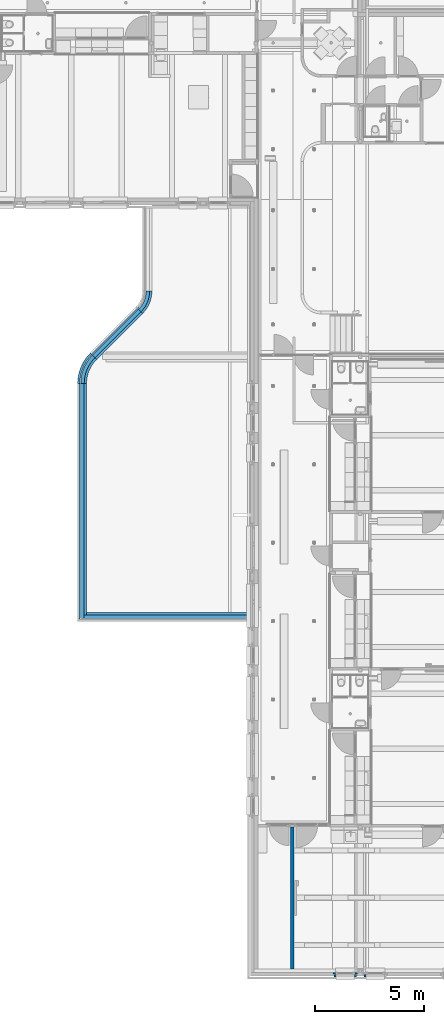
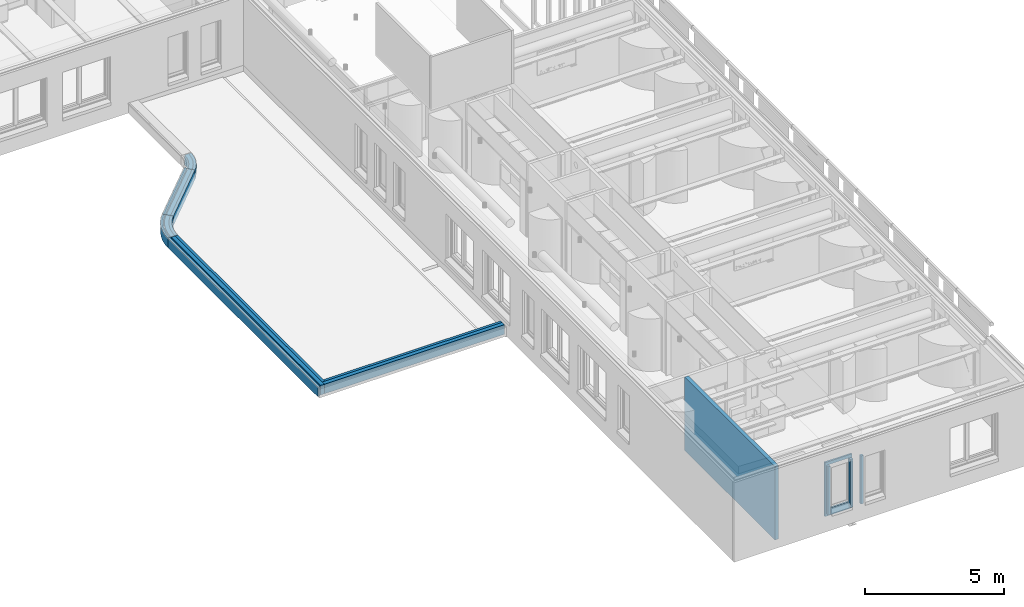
# One storey, part 32 of 128: 18 walls, 1 opening.
"""IFC2X3 building model written with IfcOpenShell, lengths in millimetres."""

from ifc_helpers import new_model, entity, si_unit, converted_unit, derived_unit, direction, frame, frame_2d, origin, place, context, subcontext, project, spatial, polyline, circle_curve, parameter, trimmed, segment, composite_curve, rectangle, outline, extrude, material, layer, layer_set, layer_usage, type_object, element, save


model = new_model("IFC2X3")

# Units and contexts
model_context = context("Model", 3, precision=0.01, world=origin(), true_north=direction((6.123031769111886e-17, 1.0)))
body_context = subcontext(model_context, "Body", "Model", "MODEL_VIEW")
ifc_project = project(units=[si_unit("LENGTHUNIT", "METRE", prefix="MILLI"), si_unit("AREAUNIT", "SQUARE_METRE"), si_unit("VOLUMEUNIT", "CUBIC_METRE"), converted_unit("PLANEANGLEUNIT", "DEGREE", entity("IfcRatioMeasure", 0.017453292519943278), si_unit("PLANEANGLEUNIT", "RADIAN"), dimensions=[0, 0, 0, 0, 0, 0, 0]), si_unit("MASSUNIT", "GRAM", prefix="KILO"), derived_unit("MASSDENSITYUNIT", [(si_unit("MASSUNIT", "GRAM", prefix="KILO"), 1), (si_unit("LENGTHUNIT", "METRE"), -3)]), derived_unit("IONCONCENTRATIONUNIT", [(si_unit("MASSUNIT", "GRAM", prefix="KILO"), 1), (si_unit("LENGTHUNIT", "METRE"), -3)]), derived_unit("MOMENTOFINERTIAUNIT", [(si_unit("LENGTHUNIT", "METRE"), 4)]), si_unit("TIMEUNIT", "SECOND"), si_unit("FREQUENCYUNIT", "HERTZ"), si_unit("THERMODYNAMICTEMPERATUREUNIT", "DEGREE_CELSIUS"), derived_unit("THERMALTRANSMITTANCEUNIT", [(si_unit("MASSUNIT", "GRAM", prefix="KILO"), 1), (si_unit("THERMODYNAMICTEMPERATUREUNIT", "KELVIN"), -1), (si_unit("TIMEUNIT", "SECOND"), -3)]), derived_unit("THERMALCONDUCTANCEUNIT", [(si_unit("MASSUNIT", "GRAM", prefix="KILO"), 1), (si_unit("THERMODYNAMICTEMPERATUREUNIT", "KELVIN"), -1), (si_unit("TIMEUNIT", "SECOND"), -3), (si_unit("LENGTHUNIT", "METRE"), 1)]), derived_unit("VOLUMETRICFLOWRATEUNIT", [(si_unit("LENGTHUNIT", "METRE"), 3), (si_unit("TIMEUNIT", "SECOND"), -1)]), derived_unit("MASSFLOWRATEUNIT", [(si_unit("MASSUNIT", "GRAM", prefix="KILO"), 1), (si_unit("TIMEUNIT", "SECOND"), -1)]), derived_unit("ROTATIONALFREQUENCYUNIT", [(si_unit("TIMEUNIT", "SECOND"), -1)]), si_unit("ELECTRICCURRENTUNIT", "AMPERE"), si_unit("ELECTRICVOLTAGEUNIT", "VOLT"), si_unit("POWERUNIT", "WATT"), si_unit("FORCEUNIT", "NEWTON", prefix="KILO"), si_unit("ILLUMINANCEUNIT", "LUX"), si_unit("LUMINOUSFLUXUNIT", "LUMEN"), si_unit("LUMINOUSINTENSITYUNIT", "CANDELA"), derived_unit("USERDEFINED", [(si_unit("MASSUNIT", "GRAM", prefix="KILO"), -1), (si_unit("LENGTHUNIT", "METRE"), -2), (si_unit("TIMEUNIT", "SECOND"), 3), (si_unit("LUMINOUSFLUXUNIT", "LUMEN"), 1)]), derived_unit("USERDEFINED", [(si_unit("MASSUNIT", "GRAM", prefix="KILO"), 1), (si_unit("TIMEUNIT", "SECOND"), -3), (si_unit("LENGTHUNIT", "METRE"), 3), (si_unit("ELECTRICCURRENTUNIT", "AMPERE"), -2)]), derived_unit("SOUNDPOWERUNIT", [(si_unit("MASSUNIT", "GRAM", prefix="KILO"), 1), (si_unit("TIMEUNIT", "SECOND"), -3), (si_unit("LENGTHUNIT", "METRE"), 2)]), derived_unit("SOUNDPRESSUREUNIT", [(si_unit("MASSUNIT", "GRAM", prefix="KILO"), 1), (si_unit("LENGTHUNIT", "METRE"), -1), (si_unit("TIMEUNIT", "SECOND"), -2)]), derived_unit("LINEARVELOCITYUNIT", [(si_unit("LENGTHUNIT", "METRE"), 1), (si_unit("TIMEUNIT", "SECOND"), -1)]), si_unit("PRESSUREUNIT", "PASCAL"), derived_unit("USERDEFINED", [(si_unit("MASSUNIT", "GRAM", prefix="KILO"), 1), (si_unit("LENGTHUNIT", "METRE"), -2), (si_unit("TIMEUNIT", "SECOND"), -2)]), derived_unit("LINEARFORCEUNIT", [(si_unit("MASSUNIT", "GRAM", prefix="KILO"), 1), (si_unit("TIMEUNIT", "SECOND"), -2)]), derived_unit("PLANARFORCEUNIT", [(si_unit("MASSUNIT", "GRAM", prefix="KILO"), 1), (si_unit("LENGTHUNIT", "METRE"), -1), (si_unit("TIMEUNIT", "SECOND"), -2)]), derived_unit("SPECIFICHEATCAPACITYUNIT", [(si_unit("THERMODYNAMICTEMPERATUREUNIT", "KELVIN"), -1), (si_unit("LENGTHUNIT", "METRE"), 2), (si_unit("TIMEUNIT", "SECOND"), -2)]), derived_unit("HEATINGVALUEUNIT", [(si_unit("LENGTHUNIT", "METRE"), 2), (si_unit("TIMEUNIT", "SECOND"), -2)]), derived_unit("VAPORPERMEABILITYUNIT", [(si_unit("LENGTHUNIT", "METRE"), -1), (si_unit("TIMEUNIT", "SECOND"), 1)]), derived_unit("DYNAMICVISCOSITYUNIT", [(si_unit("MASSUNIT", "GRAM", prefix="KILO"), 1), (si_unit("TIMEUNIT", "SECOND"), -1), (si_unit("LENGTHUNIT", "METRE"), -1)]), derived_unit("THERMALEXPANSIONCOEFFICIENTUNIT", [(si_unit("THERMODYNAMICTEMPERATUREUNIT", "KELVIN"), -1)]), derived_unit("MODULUSOFELASTICITYUNIT", [(si_unit("MASSUNIT", "GRAM", prefix="KILO"), 1), (si_unit("LENGTHUNIT", "METRE"), -1), (si_unit("TIMEUNIT", "SECOND"), -2)]), derived_unit("ISOTHERMALMOISTURECAPACITYUNIT", [(si_unit("LENGTHUNIT", "METRE"), 3), (si_unit("MASSUNIT", "GRAM", prefix="KILO"), -1)]), derived_unit("MOISTUREDIFFUSIVITYUNIT", [(si_unit("TIMEUNIT", "SECOND"), -1), (si_unit("LENGTHUNIT", "METRE"), 2)])], contexts=[model_context])

# Site, building, storey
site_placement = place(None, frame((0.0, 300.0, 0.0)))
site = spatial("IfcSite", under=ifc_project, at=site_placement, Name="<Kadastrale nummers>", CompositionType="ELEMENT")
building_placement = place(site_placement, origin())
building = spatial("IfcBuilding", under=site, at=building_placement, CompositionType="ELEMENT")
storey_placement = place(building_placement, frame((0.0, 0.0, 3560.0000331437)))
storey = spatial("IfcBuildingStorey", under=building, at=storey_placement, Name="01 eerste verdieping", CompositionType="ELEMENT", Elevation=3560.0000331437)

# Walls
ifc_material_1 = material(Name="ISR_Metselwerk")
ifc_layer_1 = layer(ifc_material_1, 100.0)
ifc_layer_set_1 = layer_set([ifc_layer_1], Name="Basic Wall:21_DAT_metselwerk_100")
ifc_layer_usage_1 = layer_usage(ifc_layer_set_1, "AXIS2", "POSITIVE", -50.0)
wall_type_1 = type_object("IfcWallType", Name="Basic Wall:21_DAT_metselwerk_100", PredefinedType="STANDARD", material=ifc_layer_set_1)
wall_1_placement = place(storey_placement, frame((28475.036916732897, 29670.375183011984, 90.00000187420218), z_axis=(0.0, 0.0, 1.0), x_axis=(0.0, -1.0, 0.0)))
element("IfcWallStandardCase", 1, at=wall_1_placement, inside=storey, type_object=wall_type_1, material=ifc_layer_usage_1, Name="Basic Wall:21_DAT_metselwerk_100", ObjectType="Basic Wall:21_DAT_metselwerk_100", context=body_context, shape_type="SweptSolid", body=[
    extrude(rectangle(XDim=10815.376559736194, YDim=100.00000000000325, at=frame_2d((5407.688279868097, 7.354117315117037e-13), x_axis=(-1.0, 0.0))), origin(), (0.0, 0.0, 1.0), 424.9999649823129),
])
wall_2_placement = place(storey_placement, frame((28475.036916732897, 29670.375183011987, 89.99997731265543)))
element("IfcWallStandardCase", 2, at=wall_2_placement, inside=storey, type_object=wall_type_1, material=ifc_layer_usage_1, Name="Basic Wall:21_DAT_metselwerk_100", ObjectType="Basic Wall:21_DAT_metselwerk_100", context=body_context, shape_type="SweptSolid", body=[
    extrude(outline(composite_curve([segment(trimmed(circle_curve(frame_2d((1925.0, 0.0), x_axis=(1.0, 0.0)), 1975.0000000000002), [parameter(134.99999999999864)], [parameter(179.99999999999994)], True, "PARAMETER"), True, "CONTINUOUS"), segment(polyline([(-50.0, 0.0), (50.0, 0.0)]), True, "CONTINUOUS"), segment(trimmed(circle_curve(frame_2d((1925.0, 0.0), x_axis=(1.0, 0.0)), 1875.0000000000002), [parameter(134.99999999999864)], [parameter(179.99999999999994)], True, "PARAMETER"), False, "CONTINUOUS"), segment(polyline([(599.1747852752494, 1325.8252147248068), (528.4641071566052, 1396.5358928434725)]), True, "CONTINUOUS")], self_intersect=False)), origin(), (0.0, 0.0, 1.0), 424.99998954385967),
])
ifc_layer_usage_2 = layer_usage(ifc_layer_set_1, "AXIS2", "NEGATIVE", 50.0)
wall_3_placement = place(storey_placement, frame((29038.856362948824, 31031.555736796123, 90.00000187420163), z_axis=(0.0, 0.0, 1.0), x_axis=(0.7071067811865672, 0.7071067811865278, 0.0)))
element("IfcWallStandardCase", 3, at=wall_3_placement, inside=storey, type_object=wall_type_1, material=ifc_layer_usage_2, Name="Basic Wall:21_DAT_metselwerk_100", ObjectType="Basic Wall:21_DAT_metselwerk_100", context=body_context, shape_type="SweptSolid", body=[
    extrude(outline(polyline([(3058.8700709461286, -50.0), (3056.1166712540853, 50.0), (0.0, 50.0), (0.0, -50.0), (3058.8700709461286, -50.0)])), origin(), (0.0, 0.0, 1.0), 424.9999649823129),
])
wall_4_placement = place(storey_placement, frame((41180.0, 2424.9986232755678, 715.0000018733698), z_axis=(0.0, 0.0, 1.0), x_axis=(0.0, 1.0, 0.0)))
element("IfcWallStandardCase", 4, at=wall_4_placement, inside=storey, type_object=wall_type_1, material=ifc_layer_usage_2, Name="Basic Wall:21_DAT_metselwerk_100", ObjectType="Basic Wall:21_DAT_metselwerk_100", context=body_context, shape_type="SweptSolid", body=[
    extrude(rectangle(XDim=110.00000000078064, YDim=99.9999999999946, at=frame_2d((55.00000000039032, -2.2453150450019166e-12), x_axis=(-1.0, 0.0))), origin(), (0.0, 0.0, 1.0), 2125.0000000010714),
])
wall_5_placement = place(storey_placement, frame((40240.0, 2424.998623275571, 715.0000018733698), z_axis=(0.0, 0.0, 1.0), x_axis=(0.0, 1.0, 0.0)))
element("IfcWallStandardCase", 5, at=wall_5_placement, inside=storey, type_object=wall_type_1, material=ifc_layer_usage_1, Name="Basic Wall:21_DAT_metselwerk_100", ObjectType="Basic Wall:21_DAT_metselwerk_100", context=body_context, shape_type="SweptSolid", body=[
    extrude(rectangle(XDim=110.0000000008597, YDim=99.9999999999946, at=frame_2d((55.00000000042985, -2.2453150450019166e-12), x_axis=(-1.0, 0.0))), origin(), (0.0, 0.0, 1.0), 2125.0000000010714),
])
wall_6_placement = place(storey_placement, frame((41620.0, 2424.9986232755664, 715.0000018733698), z_axis=(0.0, 0.0, 1.0), x_axis=(0.0, 1.0, 0.0)))
element("IfcWallStandardCase", 6, at=wall_6_placement, inside=storey, type_object=wall_type_1, material=ifc_layer_usage_1, Name="Basic Wall:21_DAT_metselwerk_100", ObjectType="Basic Wall:21_DAT_metselwerk_100", context=body_context, shape_type="SweptSolid", body=[
    extrude(rectangle(XDim=110.00000000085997, YDim=99.9999999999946, at=frame_2d((55.000000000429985, -2.2453150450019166e-12), x_axis=(-1.0, 0.0))), origin(), (0.0, 0.0, 1.0), 2125.0000000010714),
])
ifc_material_2 = material(Name="ISR_Gips")
ifc_layer_2 = layer(ifc_material_2, 1.0)
ifc_material_3 = material(Name="ISR_Kalkzandsteen")
ifc_layer_3 = layer(ifc_material_3, 148.0)
ifc_layer_4 = layer(ifc_material_2, 1.0)
ifc_layer_set_2 = layer_set([ifc_layer_2, ifc_layer_3, ifc_layer_4], Name="Basic Wall:28_DAT_kalkzandsteen_150mm")
ifc_layer_usage_3 = layer_usage(ifc_layer_set_2, "AXIS2", "NEGATIVE", 75.0)
wall_type_2 = type_object("IfcWallType", Name="Basic Wall:28_DAT_kalkzandsteen_150mm", PredefinedType="STANDARD", material=ifc_layer_set_2)
wall_7_placement = place(storey_placement, frame((38275.0, 2800.0, 90.00000187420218), z_axis=(0.0, 0.0, 1.0), x_axis=(0.0, 1.0, 0.0)))
element("IfcWallStandardCase", 7, at=wall_7_placement, inside=storey, type_object=wall_type_2, material=ifc_layer_usage_3, Name="Basic Wall:28_DAT_kalkzandsteen_150mm", ObjectType="Basic Wall:28_DAT_kalkzandsteen_150mm", context=body_context, shape_type="SweptSolid", body=[
    extrude(rectangle(XDim=6509.998623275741, YDim=150.00000000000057, at=frame_2d((3254.9993116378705, -5.684341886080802e-14), x_axis=(-1.0, 0.0))), origin(), (0.0, 0.0, 1.0), 3239.9999999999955),
])
ifc_material_4 = material(Name="ISR_Isolatie")
ifc_layer_5 = layer(ifc_material_4, 160.0)
ifc_layer_set_3 = layer_set([ifc_layer_5], Name="Basic Wall:21_DAT_isolatie minerale wol_160")
ifc_layer_usage_4 = layer_usage(ifc_layer_set_3, "AXIS2", "NEGATIVE", 80.0)
wall_type_3 = type_object("IfcWallType", Name="Basic Wall:21_DAT_isolatie minerale wol_160", PredefinedType="STANDARD", material=ifc_layer_set_3)
wall_8_placement = place(storey_placement, frame((31280.38485931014, 33031.5552263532, 89.99997731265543)))
element("IfcWallStandardCase", 8, at=wall_8_placement, inside=storey, type_object=wall_type_3, material=ifc_layer_usage_4, Name="Basic Wall:21_DAT_isolatie minerale wol_160", ObjectType="Basic Wall:21_DAT_isolatie minerale wol_160", context=body_context, shape_type="SweptSolid", body=[
    extrude(outline(composite_curve([segment(trimmed(circle_curve(frame_2d((-880.3479425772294, 880.3479425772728), x_axis=(1.0, 0.0)), 1165.0), [parameter(314.99999999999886)], [parameter(359.9999999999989)], True, "PARAMETER"), False, "CONTINUOUS"), segment(polyline([(-56.568542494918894, 56.568542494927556), (56.56854249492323, -56.568542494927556)]), True, "CONTINUOUS"), segment(trimmed(circle_curve(frame_2d((-880.3479425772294, 880.3479425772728), x_axis=(1.0, 0.0)), 1324.9999999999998), [parameter(314.99999999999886)], [parameter(359.9999999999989)], True, "PARAMETER"), True, "CONTINUOUS"), segment(polyline([(444.6520574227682, 880.3479425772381), (284.65205742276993, 880.347942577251)]), True, "CONTINUOUS")], self_intersect=False)), origin(), (0.0, 0.0, 1.0), 424.9999895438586),
])
wall_9_placement = place(storey_placement, frame((29159.06451575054, 30910.234882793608, 89.99997731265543), z_axis=(0.0, 0.0, 1.0), x_axis=(0.7071067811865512, 0.707106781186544, 0.0)))
element("IfcWallStandardCase", 9, at=wall_9_placement, inside=storey, type_object=wall_type_3, material=ifc_layer_usage_4, Name="Basic Wall:21_DAT_isolatie minerale wol_160", ObjectType="Basic Wall:21_DAT_isolatie minerale wol_160", context=body_context, shape_type="SweptSolid", body=[
    extrude(rectangle(XDim=2999.9999999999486, YDim=159.9999999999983, at=frame_2d((1499.9999999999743, -1.5205614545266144e-12), x_axis=(-1.0, 0.0))), origin(), (0.0, 0.0, 1.0), 424.9999895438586),
])
ifc_layer_usage_5 = layer_usage(ifc_layer_set_3, "AXIS2", "POSITIVE", -80.0)
wall_10_placement = place(storey_placement, frame((28645.0369167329, 29669.262481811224, 89.99997731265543)))
element("IfcWallStandardCase", 10, at=wall_10_placement, inside=storey, type_object=wall_type_3, material=ifc_layer_usage_5, Name="Basic Wall:21_DAT_isolatie minerale wol_160", ObjectType="Basic Wall:21_DAT_isolatie minerale wol_160", context=body_context, shape_type="SweptSolid", body=[
    extrude(outline(composite_curve([segment(trimmed(circle_curve(frame_2d((1755.0, 0.0), x_axis=(1.0, 0.0)), 1835.0000000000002), [parameter(134.99999999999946)], [parameter(180.0000000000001)], True, "PARAMETER"), True, "CONTINUOUS"), segment(polyline([(-80.0, 0.0), (80.0, 0.0)]), True, "CONTINUOUS"), segment(trimmed(circle_curve(frame_2d((1755.0, 0.0), x_axis=(1.0, 0.0)), 1675.0000000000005), [parameter(134.99999999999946)], [parameter(180.0000000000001)], True, "PARAMETER"), False, "CONTINUOUS"), segment(polyline([(570.5961415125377, 1184.4038584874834), (457.45905652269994, 1297.5409434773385)]), True, "CONTINUOUS")], self_intersect=False)), origin(), (0.0, 0.0, 1.0), 424.9999895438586),
])
wall_11_placement = place(storey_placement, frame((28645.03691673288, 18894.998623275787, 89.99997731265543), z_axis=(0.0, 0.0, 1.0), x_axis=(0.0, 1.0, 0.0)))
element("IfcWallStandardCase", 11, at=wall_11_placement, inside=storey, type_object=wall_type_3, material=ifc_layer_usage_4, Name="Basic Wall:21_DAT_isolatie minerale wol_160", ObjectType="Basic Wall:21_DAT_isolatie minerale wol_160", context=body_context, shape_type="SweptSolid", body=[
    extrude(rectangle(XDim=10774.263858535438, YDim=159.9999999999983, at=frame_2d((5387.131929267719, -3.197442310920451e-13), x_axis=(-1.0, 0.0))), origin(), (0.0, 0.0, 1.0), 424.9999895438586),
])
wall_12_placement = place(storey_placement, frame((36225.0, 18974.99862327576, 89.99997731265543), z_axis=(0.0, 0.0, 1.0), x_axis=(-1.0, 0.0, 0.0)))
element("IfcWallStandardCase", 12, at=wall_12_placement, inside=storey, type_object=wall_type_3, material=ifc_layer_usage_4, Name="Basic Wall:21_DAT_isolatie minerale wol_160", ObjectType="Basic Wall:21_DAT_isolatie minerale wol_160", context=body_context, shape_type="SweptSolid", body=[
    extrude(rectangle(XDim=7499.963083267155, YDim=159.99999999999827, at=frame_2d((3749.9815416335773, -1.3500311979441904e-13), x_axis=(-1.0, 0.0))), origin(), (0.0, 0.0, 1.0), 424.9999895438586),
])
ifc_material_5 = material(Name="ISR_Multiplex")
ifc_layer_6 = layer(ifc_material_5, 9.0)
ifc_material_6 = material(Name="ISR_IsolatieHekwerk")
ifc_layer_7 = layer(ifc_material_6, 100.0)
ifc_layer_set_4 = layer_set([ifc_layer_6, ifc_layer_7], Name="Basic Wall:21_DAT_Hekwerk 100")
ifc_layer_usage_6 = layer_usage(ifc_layer_set_4, "AXIS2", "POSITIVE", -54.50000000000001)
wall_type_4 = type_object("IfcWallType", Name="Basic Wall:21_DAT_Hekwerk 100", PredefinedType="STANDARD", material=ifc_layer_set_4)
wall_13_placement = place(storey_placement, frame((31779.536916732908, 33911.90316893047, 89.99997731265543)))
element("IfcWallStandardCase", 13, at=wall_13_placement, inside=storey, type_object=wall_type_4, material=ifc_layer_usage_6, Name="Basic Wall:21_DAT_Hekwerk 100", ObjectType="Basic Wall:21_DAT_Hekwerk 100", context=body_context, shape_type="SweptSolid", body=[
    extrude(outline(composite_curve([segment(trimmed(circle_curve(frame_2d((-1379.4999999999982, 0.0), x_axis=(1.0, 0.0)), 1434.0), [parameter(314.99999999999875)], [parameter(0.0)], True, "PARAMETER"), True, "CONTINUOUS"), segment(polyline([(54.500000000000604, 0.0), (-54.500000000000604, 0.0)]), True, "CONTINUOUS"), segment(trimmed(circle_curve(frame_2d((-1379.4999999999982, 0.0), x_axis=(1.0, 0.0)), 1324.9999999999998), [parameter(314.99999999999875)], [parameter(0.0)], True, "PARAMETER"), False, "CONTINUOUS"), segment(polyline([(-442.58351492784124, -936.916485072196), (-365.50887577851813, -1013.9911242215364)]), True, "CONTINUOUS")], self_intersect=False)), origin(), (0.0, 0.0, 1.0), 424.9999895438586),
])
ifc_layer_usage_7 = layer_usage(ifc_layer_set_4, "AXIS2", "NEGATIVE", 54.50000000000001)
wall_14_placement = place(storey_placement, frame((31375.490721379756, 32936.44936428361, 89.99997731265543), z_axis=(0.0, 0.0, 1.0), x_axis=(-0.7071067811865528, -0.7071067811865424, 0.0)))
element("IfcWallStandardCase", 14, at=wall_14_placement, inside=storey, type_object=wall_type_4, material=ifc_layer_usage_7, Name="Basic Wall:21_DAT_Hekwerk 100", ObjectType="Basic Wall:21_DAT_Hekwerk 100", context=body_context, shape_type="SweptSolid", body=[
    extrude(rectangle(XDim=2999.999999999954, YDim=108.99999999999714, at=frame_2d((1499.999999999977, -1.1866063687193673e-12), x_axis=(-1.0, 0.0))), origin(), (0.0, 0.0, 1.0), 424.9999895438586),
])
wall_15_placement = place(storey_placement, frame((29254.170377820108, 30815.12902072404, -60.0000041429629)))
element("IfcWallStandardCase", 15, at=wall_15_placement, inside=storey, type_object=wall_type_4, material=ifc_layer_usage_7, Name="Basic Wall:21_DAT_Hekwerk 100", ObjectType="Basic Wall:21_DAT_Hekwerk 100", context=body_context, shape_type="SweptSolid", body=[
    extrude(outline(composite_curve([segment(trimmed(circle_curve(frame_2d((1145.8665389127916, -1145.866538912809), x_axis=(1.0, 0.0)), 1566.0000000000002), [parameter(134.99999999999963)], [parameter(180.00000000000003)], True, "PARAMETER"), False, "CONTINUOUS"), segment(polyline([(38.537319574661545, -38.53731957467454), (-38.53731957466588, 38.537319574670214)]), True, "CONTINUOUS"), segment(trimmed(circle_curve(frame_2d((1145.8665389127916, -1145.866538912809), x_axis=(1.0, 0.0)), 1675.0000000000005), [parameter(134.99999999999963)], [parameter(180.00000000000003)], True, "PARAMETER"), True, "CONTINUOUS"), segment(polyline([(-529.1334610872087, -1145.8665389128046), (-420.13346108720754, -1145.8665389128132)]), True, "CONTINUOUS")], self_intersect=False)), origin(), (0.0, 0.0, 1.0), 574.9999709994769),
])
wall_16_placement = place(storey_placement, frame((28779.5369167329, 29669.262481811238, 89.99997731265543), z_axis=(0.0, 0.0, 1.0), x_axis=(0.0, -1.0, 0.0)))
element("IfcWallStandardCase", 16, at=wall_16_placement, inside=storey, type_object=wall_type_4, material=ifc_layer_usage_7, Name="Basic Wall:21_DAT_Hekwerk 100", ObjectType="Basic Wall:21_DAT_Hekwerk 100", context=body_context, shape_type="SweptSolid", body=[
    extrude(rectangle(XDim=10614.26385853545, YDim=109.00000000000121, at=frame_2d((5307.131929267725, -6.252776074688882e-13), x_axis=(-1.0, 0.0))), origin(), (0.0, 0.0, 1.0), 424.9999895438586),
])
wall_17_placement = place(storey_placement, frame((28834.03691673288, 19109.498623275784, 0.0)))
element("IfcWallStandardCase", 17, at=wall_17_placement, inside=storey, type_object=wall_type_4, material=ifc_layer_usage_7, Name="Basic Wall:21_DAT_Hekwerk 100", ObjectType="Basic Wall:21_DAT_Hekwerk 100", context=body_context, shape_type="SweptSolid", body=[
    extrude(rectangle(XDim=7390.963083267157, YDim=109.00000000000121, at=frame_2d((3695.4815416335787, -8.881784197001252e-14), x_axis=(-1.0, 0.0))), origin(), (0.0, 0.0, 1.0), 514.9999668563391),
])

# Wall, opening
ifc_layer_8 = layer(ifc_material_4, 70.0)
ifc_layer_set_5 = layer_set([ifc_layer_8], Name="Basic Wall:21_DAT_isolatie hard_74")
ifc_layer_usage_8 = layer_usage(ifc_layer_set_5, "AXIS2", "POSITIVE", -35.0)
wall_type_5 = type_object("IfcWallType", Name="Basic Wall:21_DAT_isolatie hard_74", PredefinedType="STANDARD", material=ifc_layer_set_5)
wall_18_placement = place(storey_placement, frame((40150.0, 2589.9986232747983, 589.9999668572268)))
wall_18 = element("IfcWallStandardCase", 18, at=wall_18_placement, inside=storey, type_object=wall_type_5, material=ifc_layer_usage_8, Name="Basic Wall:21_DAT_isolatie hard_74", ObjectType="Basic Wall:21_DAT_isolatie hard_74", context=body_context, shape_type="SweptSolid", body=[
    extrude(rectangle(XDim=1119.9999999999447, YDim=70.00000000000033, at=frame_2d((559.9999999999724, 1.0658141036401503e-14), x_axis=(-1.0, 0.0))), origin(), (0.0, 0.0, 1.0), 2375.000035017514),
])
opening_placement = place(wall_18_placement, origin())
element("IfcOpeningElement", 19, at=opening_placement, cuts=wall_18, Name="Basic Wall:21_DAT_isolatie hard_74", ObjectType="Opening", context=body_context, shape_type="SweptSolid", body=[
    extrude(rectangle(XDim=1929.9999999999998, YDim=880.0000000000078, at=frame_2d((5.684341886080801e-13, 0.0), x_axis=(1.0, 0.0))), frame((560.0, -187.3999999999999, 1275.0000350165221), z_axis=(0.0, 1.0, 0.0), x_axis=(0.0, 0.0, 1.0)), (0.0, 0.0, 1.0), 374.7999999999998),
])

save(model, "model.ifc")
